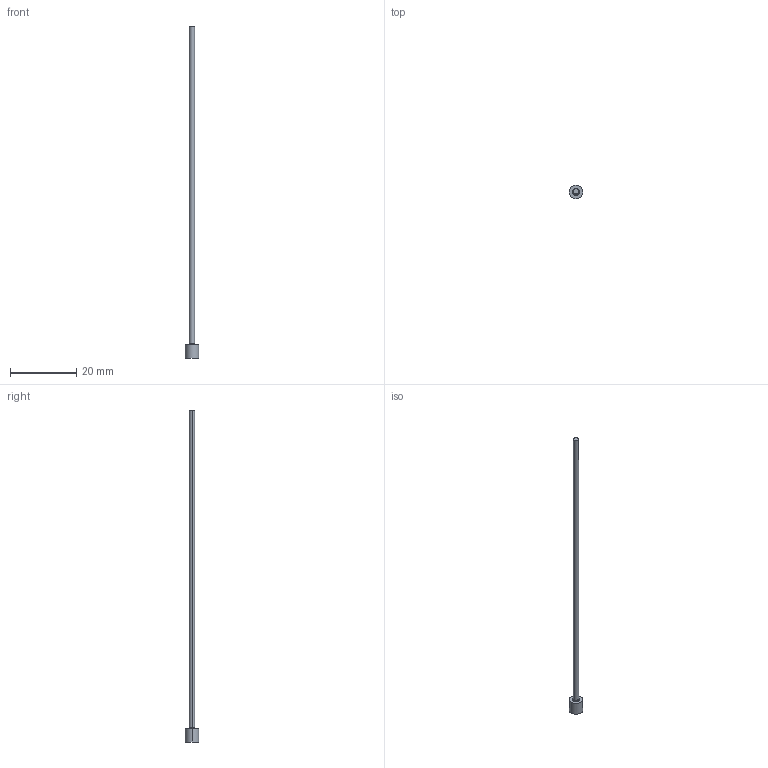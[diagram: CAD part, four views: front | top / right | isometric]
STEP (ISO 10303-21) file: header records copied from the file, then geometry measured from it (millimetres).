
FILE_DESCRIPTION (( 'STEP AP214' ), '1' );
FILE_NAME ('EPH1.6-100.step', '2024-04-11T21:07:02', ( '' ), ( '' ), 'SwSTEP 2.0', 'SolidWorks 2017', '' );
FILE_SCHEMA (( 'AUTOMOTIVE_DESIGN' ));
Length unit declared in the file: millimetre
Products named in the file (1): EPH1.6-100
Bounding box: 4 x 4 x 100 mm (x, y, z)
Volume: 243.4 mm3; surface area: 557.3 mm2
Topology: 1 solids, 1 shells, 9 faces, 16 edges, 10 vertices
Faces by surface type: cylinder 4, plane 3, torus 2
Entity records: 260 total; most frequent: DIRECTION 48, CARTESIAN_POINT 36, ORIENTED_EDGE 32, AXIS2_PLACEMENT_3D 22, EDGE_CURVE 16, CIRCLE 12, VERTEX_POINT 10, EDGE_LOOP 10
